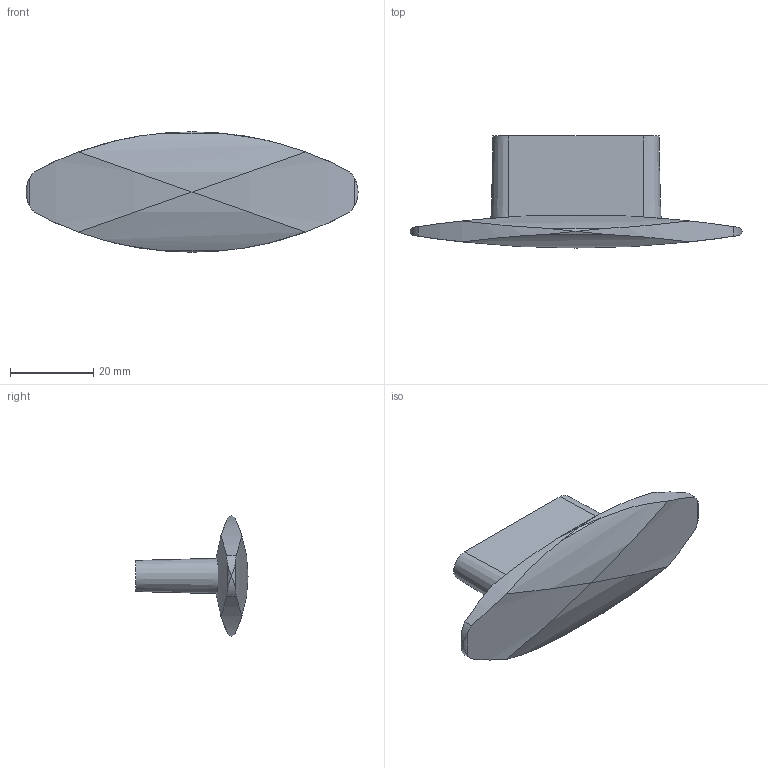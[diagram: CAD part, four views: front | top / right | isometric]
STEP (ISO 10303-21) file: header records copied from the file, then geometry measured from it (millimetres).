
FILE_DESCRIPTION( ( '' ), '1' );
FILE_NAME( 'D:/1.AUTOCAD EXPORT/Group 10/sheet_10_1/9112662.stp', '2013-10-17T05:19:14', ( '' ), ( '' ), ' ', ' ', ' ' );
FILE_SCHEMA( ( 'automotive_design' ) );
Length unit declared in the file: millimetre
Products named in the file (1): 1
Bounding box: 80 x 27 x 29 mm (x, y, z)
Volume: 15272.1 mm3; surface area: 5999.2 mm2
Topology: 1 solids, 1 shells, 35 faces, 90 edges, 59 vertices
Faces by surface type: cylinder 28, plane 5, cone 2
Entity records: 2486 total; most frequent: CARTESIAN_POINT 668, STYLED_ITEM 185, PRESENTATION_STYLE_ASSIGNMENT 185, COLOUR_RGB 185, ORIENTED_EDGE 180, DIRECTION 126, EDGE_CURVE 90, CURVE_STYLE 90
